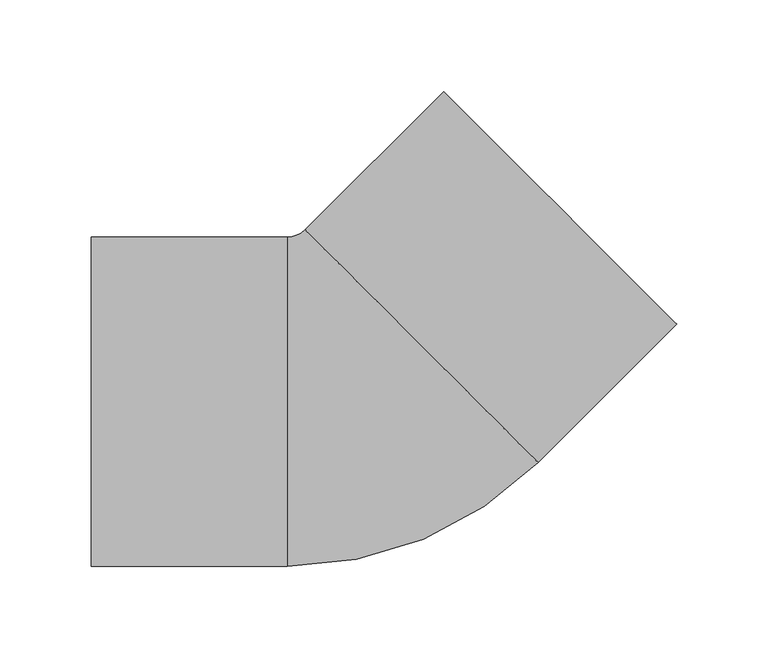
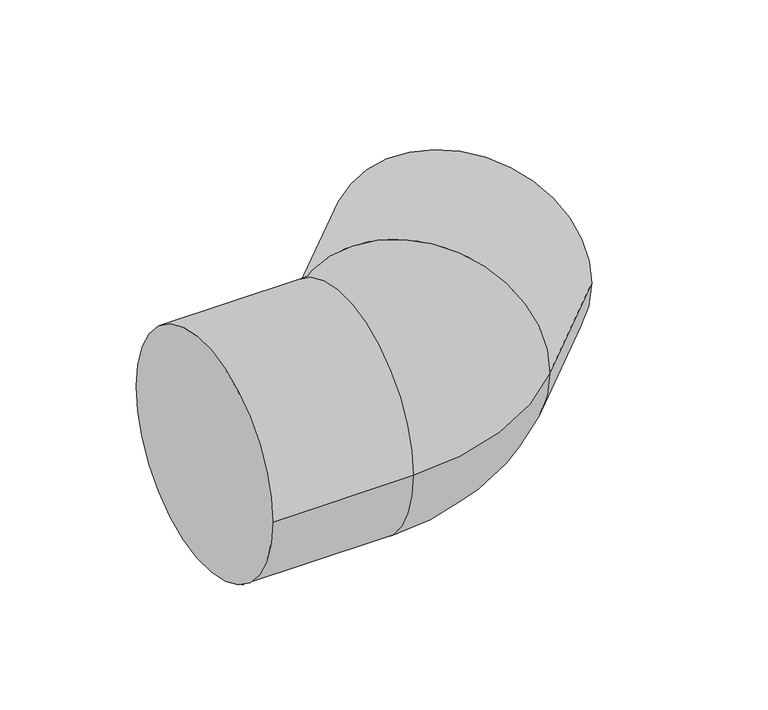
"""IFC4 building model written with IfcOpenShell, lengths in millimetres: pipe fitting geometry, 01051067 : Joelho a 45º."""

from ifc_helpers import new_model, si_unit, point, frame, origin, place, context, project, spatial, circle_curve, ellipse_curve, trimmed, source, transform, mapped, element, save
from ifc_brep_helpers import plane_surface, cylinder_surface, revolved_surface, advanced_brep


def pipe_fitting_aa07373f(model_context):
    return source(origin(), model_context, "Body", "AdvancedBrep", [
        advanced_brep(
        [(-150.0, -90.0, 0.0), (-150.0, 90.0, 0.0), (-43.0, -90.0, 0.0), (-43.0, 90.0, 0.0), (-33.2340187, 94.0452019, 0.0), (94.0452019, -33.2340187, 0.0), (169.7056275, 42.4264069, 0.0), (42.4264069, 169.7056275, 0.0)],
        [
            (0, 1, circle_curve(frame((-150.0, 0.0, 0.0), z_axis=(-1.0, 0.0, 0.0), x_axis=(0.0, 1.0, 0.0)), 90.0)),
            (1, 0, circle_curve(frame((-150.0, 0.0, 0.0), z_axis=(-1.0, 0.0, 0.0), x_axis=(0.0, 1.0, 0.0)), 90.0)),
            (0, 2),
            (2, 3, circle_curve(frame((-43.0, 0.0, 0.0), z_axis=(-1.0, 0.0, 0.0), x_axis=(0.0, 1.0, 0.0)), 90.0)),
            (3, 1),
            (3, 2, circle_curve(frame((-43.0, 0.0, 0.0), z_axis=(-1.0, 0.0, 0.0), x_axis=(0.0, 1.0, 0.0)), 90.0)),
            (4, 3, circle_curve(frame((-43.0, 103.8111832, 0.0), z_axis=(0.0, 0.0, -1.0), x_axis=(0.0, -1.0, 0.0)), 13.8111832)),
            (2, 5, circle_curve(frame((-43.0, 103.8111832, 0.0), z_axis=(0.0, 0.0, 1.0), x_axis=(0.0, -1.0, 0.0)), 193.8111832)),
            (5, 4, circle_curve(frame((30.4055916, 30.4055916, 0.0), z_axis=(-0.7071067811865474, -0.7071067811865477, 0.0), x_axis=(-0.7071067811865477, 0.7071067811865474, 0.0)), 90.0)),
            (4, 5, circle_curve(frame((30.4055916, 30.4055916, 0.0), z_axis=(-0.7071067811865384, -0.7071067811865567, 0.0), x_axis=(-0.7071067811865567, 0.7071067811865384, 0.0)), 90.0)),
            (6, 7, circle_curve(frame((106.0660172, 106.0660172, 0.0), z_axis=(0.7071067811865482, 0.7071067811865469, 0.0), x_axis=(-0.7071067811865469, 0.7071067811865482, 0.0)), 90.0)),
            (7, 6, circle_curve(frame((106.0660172, 106.0660172, 0.0), z_axis=(0.7071067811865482, 0.7071067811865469, 0.0), x_axis=(-0.7071067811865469, 0.7071067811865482, 0.0)), 90.0)),
            (5, 6),
            (7, 4),
        ],
        [
            plane_surface(frame((-150.0, 0.0, 0.0), z_axis=(-1.0, 0.0, 0.0), x_axis=(0.0, 0.0, 1.0))),
            cylinder_surface(frame((-150.0, 0.0, 0.0), z_axis=(-1.0, 0.0, 0.0), x_axis=(0.0, 1.0, 0.0)), 90.0),
            revolved_surface(trimmed(ellipse_curve(frame((-43.0, 0.0, 0.0), z_axis=(-1.0, 0.0, 0.0), x_axis=(0.0, 1.0, 0.0)), 90.0, 90.0), [point((-43.0, -90.0, 0.0))], [point((-43.0, 90.0, 0.0))], True, "CARTESIAN"), (-43.0, 103.8111832, 0.0), (0.0, 0.0, 1.0)),
            revolved_surface(trimmed(ellipse_curve(frame((-43.0, 0.0, 0.0), z_axis=(-1.0, 0.0, 0.0), x_axis=(0.0, 1.0, 0.0)), 90.0, 90.0), [point((-43.0, 90.0, 0.0))], [point((-43.0, -90.0, 0.0))], True, "CARTESIAN"), (-43.0, 103.8111832, 0.0), (0.0, 0.0, 1.0)),
            plane_surface(frame((106.0660172, 106.0660172, 0.0), z_axis=(0.7071067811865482, 0.7071067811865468, 0.0), x_axis=(0.0, 0.0, 1.0))),
            cylinder_surface(frame((30.4055916, 30.4055916, 0.0), z_axis=(-0.7071067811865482, -0.7071067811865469, 0.0), x_axis=(-0.7071067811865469, 0.7071067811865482, 0.0)), 90.0),
        ],
        [
            (0, [[1, 2]]),
            (1, [[-1, 3, 4, 5]]),
            (1, [[-2, -5, 6, -3]]),
            (2, [[7, -4, 8, 9]]),
            (3, [[-8, -6, -7, 10]]),
            (4, [[11, 12]]),
            (5, [[-9, 13, -12, 14]]),
            (5, [[-10, -14, -11, -13]]),
        ],
    ),
    ])


if __name__ == "__main__":
    model = new_model("IFC4")
    model_context = context("Model", 3, world=origin())
    ifc_project = project(units=[si_unit("LENGTHUNIT", "METRE", prefix="MILLI")], contexts=[model_context])
    site = spatial("IfcSite", under=ifc_project)
    building = spatial("IfcBuilding", under=site)
    placement = place(None, origin())
    pipe_fitting_shape = pipe_fitting_aa07373f(model_context)
    element("IfcPipeFitting", 1, ObjectType="01051067 : Joelho a 45º", at=placement, inside=building, context=model_context, shape_type="MappedRepresentation", body=[
        mapped(pipe_fitting_shape, transform((0.0, 0.0, 0.0), x_axis=(1.0, 0.0, 0.0), y_axis=(0.0, 1.0, 0.0), z_axis=(0.0, 0.0, 1.0))),
    ])
    save(model, "model.ifc")
